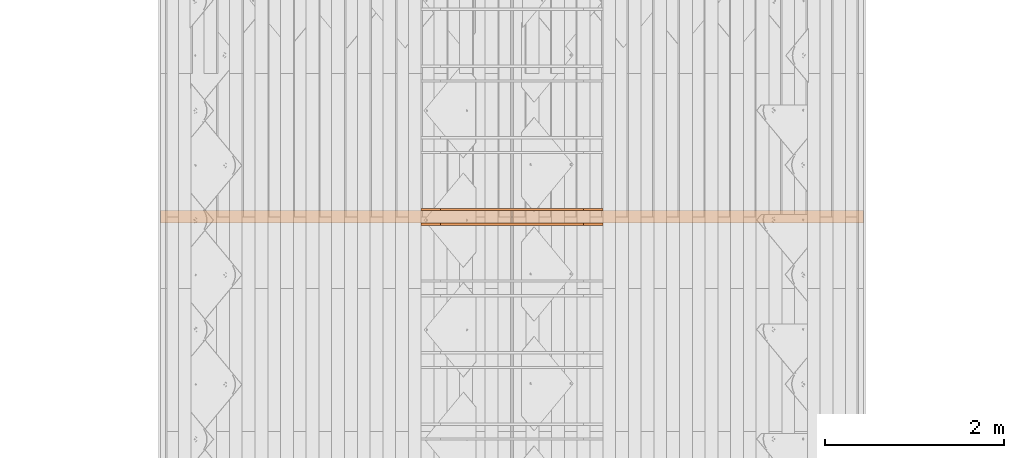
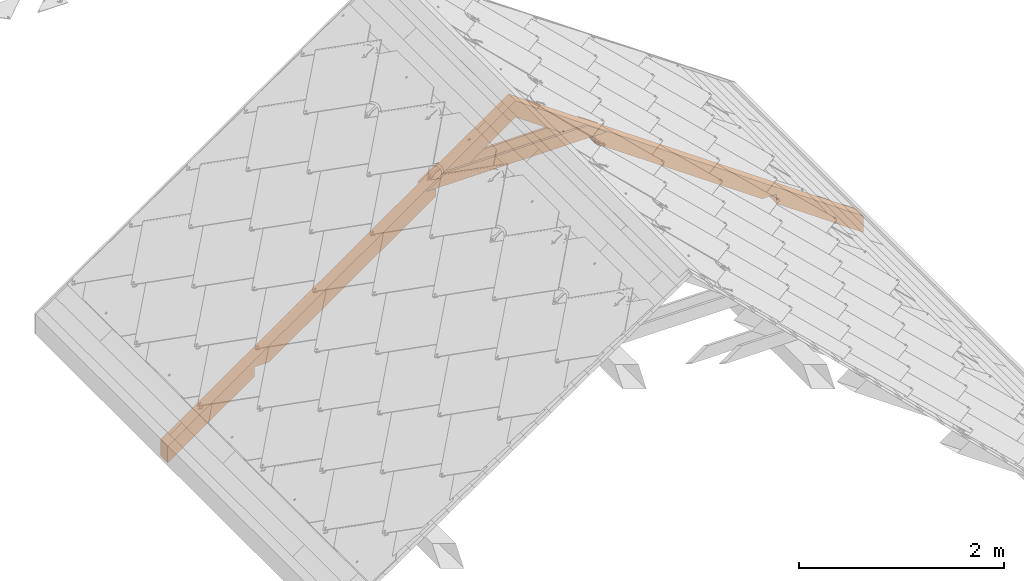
# One storey, part 68 of 151: 3 proxies, 1 element without a shape of its own.
"""IFC2X3 building model written with IfcOpenShell, lengths in millimetres."""

import ifcopenshell
import ifcopenshell.guid

model = None  # the IFC model being written
_history = None  # IfcOwnerHistory: only IFC2X3 demands one
_inside = {}  # id of a spatial element -> (the spatial element, [elements in it])
_under = {}  # id of a project, library or spatial element -> (it, [spatial elements below it])
_declared = {}  # id of a project -> (the project, [libraries it declares])
_typed = {}  # id of a type object -> (the type object, [elements of that type])
_made_of = {}  # id of a material, layer set ... -> (it, [elements and type objects made of it])


def new_model(schema):
    """Start an empty IFC model of exactly this schema.

    Asked for "IFC4X3", IfcOpenShell would pick the latest addendum, in which some entities
    have other attributes; the version numbers below select the first issue.
    IFC2X3 requires an IfcOwnerHistory on every rooted entity: one is made here for all.
    """
    global model, _history
    if schema == "IFC4X3":
        model = ifcopenshell.file(schema_version=(4, 3, 0, 0))
    else:
        model = ifcopenshell.file(schema=schema)
    _inside.clear()
    _under.clear()
    _declared.clear()
    _typed.clear()
    _made_of.clear()
    _history = None
    if model.schema == "IFC2X3":
        org = make("IfcOrganization", Name="unknown")
        user = make(
            "IfcPersonAndOrganization",
            ThePerson=make("IfcPerson", FamilyName="unknown"),
            TheOrganization=org,
        )
        app = make(
            "IfcApplication",
            ApplicationDeveloper=org,
            Version="unknown",
            ApplicationFullName="unknown",
            ApplicationIdentifier="unknown",
        )
        _history = make(
            "IfcOwnerHistory",
            OwningUser=user,
            OwningApplication=app,
            ChangeAction="ADDED",
            CreationDate=0,
        )
    return model


def make(cls, **values):
    """One entity of the class cls with the attributes given. An attribute that is None is left unset."""
    return model.create_entity(
        cls, **{name: value for name, value in values.items() if value is not None}
    )


def entity(cls, *values):
    """Any entity or typed value of the class cls, its attributes in the order of the schema. None: left unset."""
    e = model.create_entity(cls)
    for i, value in enumerate(values):
        if value is not None:
            e[i] = value
    return e


def rooted(cls, **values):
    """An entity with a GlobalId (a new one), such as an element, a storey or a relation."""
    return make(cls, GlobalId=ifcopenshell.guid.new(), OwnerHistory=_history, **values)


def si_unit(unit_type, name, prefix=None):
    """IfcSIUnit, for example si_unit("LENGTHUNIT", "METRE", prefix="MILLI")."""
    return make("IfcSIUnit", UnitType=unit_type, Prefix=prefix, Name=name)


def converted_unit(unit_type, name, factor, base, dimensions=None, offset=None):
    """IfcConversionBasedUnit, such as the inch: factor (a typed value) times the base unit."""
    return make(
        "IfcConversionBasedUnit"
        if offset is None
        else "IfcConversionBasedUnitWithOffset",
        ConversionOffset=offset,
        Dimensions=None
        if dimensions is None
        else entity("IfcDimensionalExponents", *dimensions),
        UnitType=unit_type,
        Name=name,
        ConversionFactor=make(
            "IfcMeasureWithUnit", ValueComponent=factor, UnitComponent=base
        ),
    )


def derived_unit(unit_type, elements):
    """IfcDerivedUnit: a product of units, each with its exponent."""
    return make(
        "IfcDerivedUnit",
        Elements=[
            make("IfcDerivedUnitElement", Unit=unit, Exponent=power)
            for unit, power in elements
        ],
        UnitType=unit_type,
    )


def assignment(units):
    """IfcUnitAssignment: the units of a project."""
    return None if units is None else make("IfcUnitAssignment", Units=units)


def point(xyz):
    """IfcCartesianPoint."""
    return None if xyz is None else make("IfcCartesianPoint", Coordinates=xyz)


def direction(xyz):
    """IfcDirection."""
    return None if xyz is None else make("IfcDirection", DirectionRatios=xyz)


def frame(location, z_axis=None, x_axis=None):
    """IfcAxis2Placement3D, a coordinate frame: its origin and axes. An axis left out is left unset."""
    return make(
        "IfcAxis2Placement3D",
        Location=point(location),
        Axis=direction(z_axis),
        RefDirection=direction(x_axis),
    )


def origin():
    """The frame at (0, 0, 0) with its axes left unset."""
    return frame((0.0, 0.0, 0.0))


def place(relative_to, where):
    """IfcLocalPlacement: puts the frame where relative to a parent placement (None: the world)."""
    return make(
        "IfcLocalPlacement", PlacementRelTo=relative_to, RelativePlacement=where
    )


def context(
    kind, dimensions, precision=None, world=None, true_north=None, identifier=None
):
    """IfcGeometricRepresentationContext, for example the 3D "Model" context."""
    return make(
        "IfcGeometricRepresentationContext",
        ContextIdentifier=identifier,
        ContextType=kind,
        CoordinateSpaceDimension=dimensions,
        Precision=precision,
        WorldCoordinateSystem=world,
        TrueNorth=true_north,
    )


def subcontext(parent, identifier, kind, view, scale=None):
    """IfcGeometricRepresentationSubContext, for example "Body" below "Model"."""
    return make(
        "IfcGeometricRepresentationSubContext",
        ContextIdentifier=identifier,
        ContextType=kind,
        ParentContext=parent,
        TargetScale=scale,
        TargetView=view,
    )


def project(units=None, contexts=None):
    """IfcProject with its units and contexts."""
    return rooted(
        "IfcProject",
        Name="project",
        RepresentationContexts=contexts,
        UnitsInContext=assignment(units),
    )


def spatial(cls, under=None, at=None, **own):
    """A site, building, storey or space (cls), placed at a placement, below another one or the project."""
    s = rooted(cls, ObjectPlacement=at, **own)
    if under is not None:
        _under.setdefault(under.id(), (under, []))[1].append(s)
    return s


def polyline(points):
    """IfcPolyline through the points."""
    return make("IfcPolyline", Points=[point(p) for p in points])


def outline(outer, holes=None, kind="AREA"):
    """IfcArbitraryClosedProfileDef: a profile drawn as a closed curve; with holes, ...WithVoids."""
    if holes is None:
        return make("IfcArbitraryClosedProfileDef", ProfileType=kind, OuterCurve=outer)
    return make(
        "IfcArbitraryProfileDefWithVoids",
        ProfileType=kind,
        OuterCurve=outer,
        InnerCurves=holes,
    )


def extrude(swept, where, along, depth):
    """IfcExtrudedAreaSolid: the profile swept, set in the frame where, extruded along a direction by depth."""
    return make(
        "IfcExtrudedAreaSolid",
        SweptArea=swept,
        Position=where,
        ExtrudedDirection=direction(along),
        Depth=depth,
    )


def shape(context_of_items, identifier, shape_type, items):
    """IfcShapeRepresentation: the items that make up one representation, for example the "Body"."""
    return make(
        "IfcShapeRepresentation",
        ContextOfItems=context_of_items,
        RepresentationIdentifier=identifier,
        RepresentationType=shape_type,
        Items=items,
    )


def source(mapping_origin, context_of_items, identifier, shape_type, items):
    """IfcRepresentationMap: a shape defined once, which mapped items show again and again."""
    return make(
        "IfcRepresentationMap",
        MappingOrigin=mapping_origin,
        MappedRepresentation=shape(context_of_items, identifier, shape_type, items),
    )


def transform(
    local_origin,
    x_axis=None,
    y_axis=None,
    z_axis=None,
    scale=None,
    scale2=None,
    scale3=None,
    uniform=True,
):
    """IfcCartesianTransformationOperator3D, or its non-uniform kind. x_axis, y_axis, z_axis: its Axis1, 2, 3."""
    if uniform:
        return make(
            "IfcCartesianTransformationOperator3D",
            Axis1=direction(x_axis),
            Axis2=direction(y_axis),
            LocalOrigin=point(local_origin),
            Scale=scale,
            Axis3=direction(z_axis),
        )
    return make(
        "IfcCartesianTransformationOperator3DnonUniform",
        Axis1=direction(x_axis),
        Axis2=direction(y_axis),
        LocalOrigin=point(local_origin),
        Scale=scale,
        Axis3=direction(z_axis),
        Scale2=scale2,
        Scale3=scale3,
    )


def mapped(mapping_source, mapping_target):
    """IfcMappedItem: shows the shape of a source again, moved by a transform."""
    return make(
        "IfcMappedItem", MappingSource=mapping_source, MappingTarget=mapping_target
    )


def material(Name=None, Category=None):
    """IfcMaterial."""
    return make("IfcMaterial", Name=Name, Category=Category)


def made_of(thing, what):
    """Note that an element or type object is made of a material, layer set ...; save() writes the relation."""
    if what is not None:
        _made_of.setdefault(what.id(), (what, []))[1].append(thing)
    return thing


def type_object(cls, material=None, **own):
    """A type object (cls), such as IfcWallType, which elements share."""
    return made_of(rooted(cls, **own), material)


def type_shapes(of_type, sources):
    """Give a type object the sources (RepresentationMaps) that its elements show as mapped items."""
    of_type.RepresentationMaps = sources


def element(
    cls,
    number,
    at=None,
    inside=None,
    cuts=None,
    type_object=None,
    material=None,
    context=None,
    identifier="Body",
    shape_type=None,
    held_by="IfcProductDefinitionShape",
    body=None,
    shapes=None,
    **own,
):
    """One element of the class cls, such as IfcWall. Its Tag is "e" and its number.

    at: its placement. inside: the storey or other place that contains it. cuts: it is an
    opening in that element (IfcRelVoidsElement). A single representation is given by context,
    identifier, shape_type and body (its items); several are given by shapes. held_by: the class
    of the entity that holds the representations. save() writes the other relations.
    """
    e = rooted(cls, Tag="e%d" % number, ObjectPlacement=at, **own)
    if body is not None:
        shapes = [shape(context, identifier, shape_type, body)]
    if shapes is not None:
        e.Representation = make(held_by, Representations=shapes)
    if inside is not None:
        _inside.setdefault(inside.id(), (inside, []))[1].append(e)
    if cuts is not None:
        rooted(
            "IfcRelVoidsElement", RelatingBuildingElement=cuts, RelatedOpeningElement=e
        )
    if type_object is not None:
        _typed.setdefault(type_object.id(), (type_object, []))[1].append(e)
    return made_of(e, material)


def aggregate(whole, parts):
    """IfcRelAggregates: a whole, such as a stair, and the parts it consists of."""
    return rooted("IfcRelAggregates", RelatingObject=whole, RelatedObjects=parts)


def save(model, path):
    """Write the relations noted so far, then the file.

    IfcRelAggregates (storeys below a building ...), IfcRelContainedInSpatialStructure (elements
    in a storey), IfcRelDefinesByType, IfcRelAssociatesMaterial and IfcRelDeclares: one each for
    every whole, place, type object, material and project.
    """
    for whole, parts in _under.values():
        aggregate(whole, parts)
    for where, things in _inside.values():
        rooted(
            "IfcRelContainedInSpatialStructure",
            RelatedElements=things,
            RelatingStructure=where,
        )
    for kind, things in _typed.values():
        rooted("IfcRelDefinesByType", RelatedObjects=things, RelatingType=kind)
    for what, things in _made_of.values():
        rooted("IfcRelAssociatesMaterial", RelatedObjects=things, RelatingMaterial=what)
    for by, libraries in _declared.values():
        rooted("IfcRelDeclares", RelatingContext=by, RelatedDefinitions=libraries)
    model.write(path)


model = new_model("IFC2X3")

# Units and contexts
model_context = context("Model", 3, precision=0.01, world=origin(), true_north=direction((6.12303176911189e-17, 1.0)))
body_context = subcontext(model_context, "Body", "Model", "MODEL_VIEW")
ifc_project = project(units=[si_unit("LENGTHUNIT", "METRE", prefix="MILLI"), si_unit("AREAUNIT", "SQUARE_METRE"), si_unit("VOLUMEUNIT", "CUBIC_METRE"), converted_unit("PLANEANGLEUNIT", "DEGREE", entity("IfcRatioMeasure", 0.0174532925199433), si_unit("PLANEANGLEUNIT", "RADIAN"), dimensions=[0, 0, 0, 0, 0, 0, 0]), si_unit("MASSUNIT", "GRAM", prefix="KILO"), derived_unit("MASSDENSITYUNIT", [(si_unit("MASSUNIT", "GRAM", prefix="KILO"), 1), (si_unit("LENGTHUNIT", "METRE"), -3)]), si_unit("TIMEUNIT", "SECOND"), si_unit("FREQUENCYUNIT", "HERTZ"), si_unit("THERMODYNAMICTEMPERATUREUNIT", "DEGREE_CELSIUS"), derived_unit("THERMALTRANSMITTANCEUNIT", [(si_unit("MASSUNIT", "GRAM", prefix="KILO"), 1), (si_unit("THERMODYNAMICTEMPERATUREUNIT", "KELVIN"), -1), (si_unit("TIMEUNIT", "SECOND"), -3)]), derived_unit("VOLUMETRICFLOWRATEUNIT", [(si_unit("LENGTHUNIT", "METRE"), 3), (si_unit("TIMEUNIT", "SECOND"), -1)]), si_unit("ELECTRICCURRENTUNIT", "AMPERE"), si_unit("ELECTRICVOLTAGEUNIT", "VOLT"), si_unit("POWERUNIT", "WATT"), si_unit("FORCEUNIT", "NEWTON", prefix="KILO"), si_unit("ILLUMINANCEUNIT", "LUX"), si_unit("LUMINOUSFLUXUNIT", "LUMEN"), si_unit("LUMINOUSINTENSITYUNIT", "CANDELA"), derived_unit("USERDEFINED", [(si_unit("MASSUNIT", "GRAM", prefix="KILO"), -1), (si_unit("LENGTHUNIT", "METRE"), -2), (si_unit("TIMEUNIT", "SECOND"), 3), (si_unit("LUMINOUSFLUXUNIT", "LUMEN"), 1)]), derived_unit("LINEARVELOCITYUNIT", [(si_unit("LENGTHUNIT", "METRE"), 1), (si_unit("TIMEUNIT", "SECOND"), -1)]), si_unit("PRESSUREUNIT", "PASCAL"), derived_unit("USERDEFINED", [(si_unit("LENGTHUNIT", "METRE"), -2), (si_unit("MASSUNIT", "GRAM", prefix="KILO"), 1), (si_unit("TIMEUNIT", "SECOND"), -2)])], contexts=[model_context])

# Site, building, storey
site_placement = place(None, origin())
site = spatial("IfcSite", under=ifc_project, at=site_placement, Name="Default", CompositionType="ELEMENT")
building_placement = place(site_placement, origin())
building = spatial("IfcBuilding", under=site, at=building_placement, CompositionType="ELEMENT")
storey_placement = place(building_placement, origin())
storey = spatial("IfcBuildingStorey", under=building, at=storey_placement, Name="Level 1", CompositionType="ELEMENT", Elevation=0.0)

# Assembly, proxies
assembly_placement = place(storey_placement, origin())
assembly = element("IfcElementAssembly", 1, at=assembly_placement, inside=storey, Name="Structural Framing Assembly:Roof Construction Assembly", ObjectType="Structural Framing Assembly:Roof Construction Assembly", AssemblyPlace="NOTDEFINED", PredefinedType="USERDEFINED")
ifc_material = material(Name="Wood - Generic - Wood For Showcase")
building_element_proxy_type_1 = type_object("IfcBuildingElementProxyType", Name="Structural Framing 1", PredefinedType="NOTDEFINED", material=ifc_material)
shared_shape_1 = source(origin(), body_context, "Body", "SweptSolid", [
    extrude(outline(polyline([(-929.245683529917, -1327.10037070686), (3863.25950492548, -1327.10037070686), (3975.29271103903, -1167.10037070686), (2778.93361405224, -1167.10037070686), (2713.54351952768, -1260.48710386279), (2580.17344271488, -1167.10037070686), (278.933614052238, -1167.10037070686), (213.543519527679, -1260.48710386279), (80.1734427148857, -1167.10037070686), (-817.21247741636, -1167.10037070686), (-1124.13653843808, -323.833443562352), (-1257.50661525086, -230.446710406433), (-1192.11652072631, -137.059977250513), (-1979.18689675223, 2025.39810840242), (-2112.55697356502, 2118.78484155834), (-2047.16687904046, 2212.17157471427), (-2456.34578886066, 3336.38138996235), (-2568.37899497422, 3176.38138996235), (-929.245683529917, -1327.10037070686)])), frame((1206.77890726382, 3785.55080214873, 1179.90959070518), z_axis=(0.0, 1.0, 0.0), x_axis=(0.819152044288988, 0.0, -0.573576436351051)), (0.0, 0.0, 1.0), 140.0),
])
type_shapes(building_element_proxy_type_1, [shared_shape_1])
proxy_1_placement = place(assembly_placement, frame((57.4878711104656, -2400.0, 0.0)))
proxy_1 = element("IfcBuildingElementProxy", 2, at=proxy_1_placement, type_object=building_element_proxy_type_1, material=ifc_material, Name="Structural Framing 4:Structural Framing 1", ObjectType="Structural Framing 4:Structural Framing 1", context=body_context, shape_type="MappedRepresentation", body=[
    mapped(shared_shape_1, transform((0.0, 0.0, 0.0), scale=1.0)),
])
building_element_proxy_type_2 = type_object("IfcBuildingElementProxyType", Name="Structural Framing 296", PredefinedType="NOTDEFINED", material=ifc_material)
shared_shape_2 = source(origin(), body_context, "Body", "SweptSolid", [
    extrude(outline(polyline([(-1014.04699829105, -75.0), (1014.04699829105, -75.0), (799.824797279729, 75.0), (-799.824797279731, 75.0), (-1014.04699829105, -75.0)])), frame((1206.77890726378, 3760.55080214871, 2164.95664769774), z_axis=(0.0, 1.0, 0.0), x_axis=(-1.0, 0.0, 0.0)), (0.0, 0.0, 1.0), 24.9999999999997),
])
type_shapes(building_element_proxy_type_2, [shared_shape_2])
proxy_2_placement = place(assembly_placement, frame((57.4878711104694, -2400.0, 0.0)))
proxy_2 = element("IfcBuildingElementProxy", 3, at=proxy_2_placement, type_object=building_element_proxy_type_2, material=ifc_material, Name="Structural Framing 301:Structural Framing 296", ObjectType="Structural Framing 301:Structural Framing 296", context=body_context, shape_type="MappedRepresentation", body=[
    mapped(shared_shape_2, transform((0.0, 0.0, 0.0), scale=1.0)),
])
building_element_proxy_type_3 = type_object("IfcBuildingElementProxyType", Name="Structural Framing 296", PredefinedType="NOTDEFINED", material=ifc_material)
shared_shape_3 = source(origin(), body_context, "Body", "SweptSolid", [
    extrude(outline(polyline([(-1014.04699829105, -75.0), (1014.04699829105, -75.0), (799.824797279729, 75.0), (-799.824797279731, 75.0), (-1014.04699829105, -75.0)])), frame((1206.77890726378, 2325.55080214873, 2164.95664769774), z_axis=(0.0, 1.0, 0.0), x_axis=(-1.0, 0.0, 0.0)), (0.0, 0.0, 1.0), 25.0),
])
type_shapes(building_element_proxy_type_3, [shared_shape_3])
proxy_3_placement = place(assembly_placement, frame((57.4878711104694, -800.0, 0.0)))
proxy_3 = element("IfcBuildingElementProxy", 4, at=proxy_3_placement, type_object=building_element_proxy_type_3, material=ifc_material, Name="Structural Framing 302:Structural Framing 296", ObjectType="Structural Framing 302:Structural Framing 296", context=body_context, shape_type="MappedRepresentation", body=[
    mapped(shared_shape_3, transform((0.0, 0.0, 0.0), scale=1.0)),
])
aggregate(assembly, [proxy_1, proxy_2, proxy_3])

save(model, "model.ifc")
